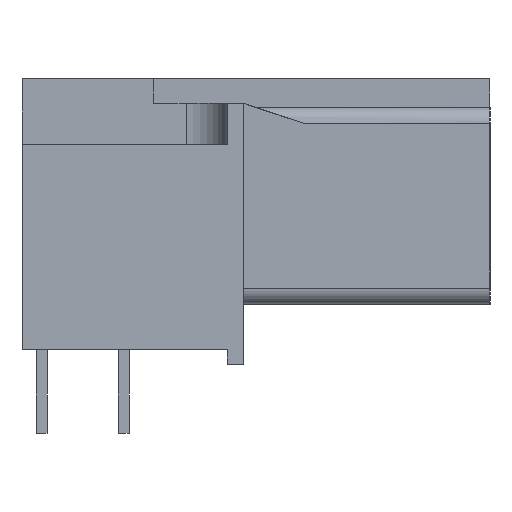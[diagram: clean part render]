
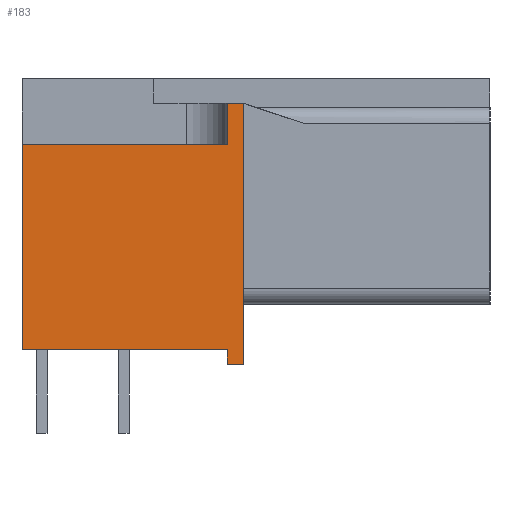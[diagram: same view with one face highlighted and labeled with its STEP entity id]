
A CAD part, left-side view. The second image highlights one B-rep face of the part: STEP entity #183.
In plain terms, the highlighted planar face has unit normal (-1, 0, 0).
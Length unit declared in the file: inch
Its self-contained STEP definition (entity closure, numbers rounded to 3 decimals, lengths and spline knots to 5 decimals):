
#183=ADVANCED_FACE('',(#1245),#719,.T.);
#719=PLANE('',#9754);
#1245=FACE_OUTER_BOUND('',#1879,.T.);
#1879=EDGE_LOOP('',(#2887,#2888,#2889,#2890,#2891,#2892,#2893,#2894));
#2887=ORIENTED_EDGE('',*,*,#6334,.F.);
#2888=ORIENTED_EDGE('',*,*,#6335,.T.);
#2889=ORIENTED_EDGE('',*,*,#6336,.T.);
#2890=ORIENTED_EDGE('',*,*,#5890,.F.);
#2891=ORIENTED_EDGE('',*,*,#6173,.F.);
#2892=ORIENTED_EDGE('',*,*,#6114,.F.);
#2893=ORIENTED_EDGE('',*,*,#5895,.T.);
#2894=ORIENTED_EDGE('',*,*,#5885,.T.);
#5010=VERTEX_POINT('',#12690);
#5019=VERTEX_POINT('',#12707);
#5023=VERTEX_POINT('',#12717);
#5024=VERTEX_POINT('',#12719);
#5026=VERTEX_POINT('',#12725);
#5240=VERTEX_POINT('',#13162);
#5453=VERTEX_POINT('',#13603);
#5454=VERTEX_POINT('',#13605);
#5885=EDGE_CURVE('',#5010,#5019,#7181,.T.);
#5890=EDGE_CURVE('',#5023,#5024,#7186,.T.);
#5895=EDGE_CURVE('',#5026,#5010,#7191,.T.);
#6114=EDGE_CURVE('',#5026,#5240,#7406,.T.);
#6173=EDGE_CURVE('',#5240,#5023,#7464,.T.);
#6334=EDGE_CURVE('',#5453,#5019,#7622,.T.);
#6335=EDGE_CURVE('',#5453,#5454,#7623,.T.);
#6336=EDGE_CURVE('',#5454,#5024,#7624,.T.);
#7181=LINE('',#12708,#8463);
#7186=LINE('',#12718,#8468);
#7191=LINE('',#12728,#8473);
#7406=LINE('',#13165,#8688);
#7464=LINE('',#13282,#8746);
#7622=LINE('',#13602,#8904);
#7623=LINE('',#13604,#8905);
#7624=LINE('',#13606,#8906);
#8463=VECTOR('',#10306,1.);
#8468=VECTOR('',#10313,1.);
#8473=VECTOR('',#10320,1.);
#8688=VECTOR('',#10551,1.);
#8746=VECTOR('',#10613,1.);
#8904=VECTOR('',#10787,1.);
#8905=VECTOR('',#10788,1.);
#8906=VECTOR('',#10789,1.);
#9754=AXIS2_PLACEMENT_3D('',#13607,#10790,#10791);
#10306=DIRECTION('',(0.,0.,1.));
#10313=DIRECTION('',(0.,0.,1.));
#10320=DIRECTION('',(0.,-1.,0.));
#10551=DIRECTION('',(0.,0.,1.));
#10613=DIRECTION('',(0.,1.,0.));
#10787=DIRECTION('',(0.,-1.,0.));
#10788=DIRECTION('',(0.,0.,-1.));
#10789=DIRECTION('',(0.,1.,0.));
#10790=DIRECTION('',(-1.,0.,0.));
#10791=DIRECTION('',(0.,0.,1.));
#12690=CARTESIAN_POINT('',(0.,0.,0.));
#12707=CARTESIAN_POINT('',(0.,0.,0.318));
#12708=CARTESIAN_POINT('',(0.,0.,0.));
#12717=CARTESIAN_POINT('',(0.,0.27,0.018));
#12718=CARTESIAN_POINT('',(0.,0.27,0.));
#12719=CARTESIAN_POINT('',(0.,0.27,0.268));
#12725=CARTESIAN_POINT('',(0.,0.02,0.));
#12728=CARTESIAN_POINT('',(0.,0.135,0.));
#13162=CARTESIAN_POINT('',(0.,0.02,0.018));
#13165=CARTESIAN_POINT('',(0.,0.02,0.));
#13282=CARTESIAN_POINT('',(0.,0.135,0.018));
#13602=CARTESIAN_POINT('',(0.,0.11,0.318));
#13603=CARTESIAN_POINT('',(0.,0.02,0.318));
#13604=CARTESIAN_POINT('',(0.,0.02,0.268));
#13605=CARTESIAN_POINT('',(0.,0.02,0.268));
#13606=CARTESIAN_POINT('',(0.,0.02,0.268));
#13607=CARTESIAN_POINT('',(0.,0.135,0.));
